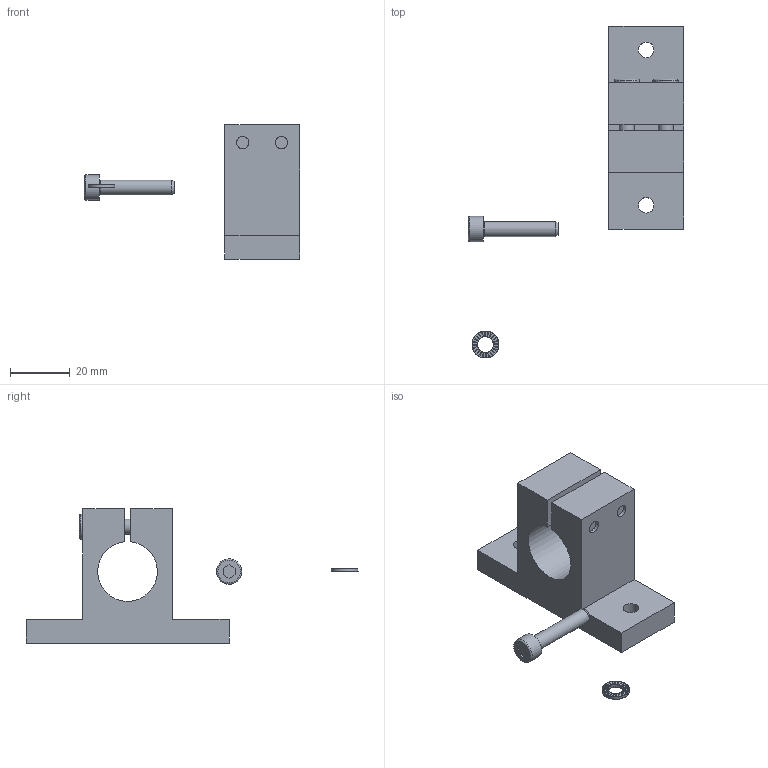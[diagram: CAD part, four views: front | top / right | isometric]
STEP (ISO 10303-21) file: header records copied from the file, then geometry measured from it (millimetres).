
FILE_DESCRIPTION( ( 'Unknown' ), '1' );
FILE_NAME( 'C:/Users/Fabrizio/Desktop/DISEGNI ACCESSORI FP SOLIDEDGE/CA.03.07.003.stp', 'Unknown', ( 'Unknown' ), ( 'Unknown' ), 'PSStep 13.0', 'Unknown', ' ' );
FILE_SCHEMA( ( 'AUTOMOTIVE_DESIGN { 1 0 10303 214 1 1 1 1 }' ) );
Length unit declared in the file: millimetre
Products named in the file (4): Assem1; 03-07--003; V-tcei M  5 x 25; R.5.SCH
Bounding box: 72 x 111.14 x 45 mm (x, y, z)
Volume: 64085.2 mm3; surface area: 25041.1 mm2
Topology: 5 solids, 8 shells, 675 faces, 1965 edges, 1307 vertices
Faces by surface type: plane 636, cylinder 30, torus 6, cone 3
Full cylindrical faces by diameter (mm): 4.134 x4, 5 x3, 5.2 x8, 5.3 x3, 8.5 x3, 9 x3, 11 x4
Entity records: 9370 total; most frequent: DIRECTION 1348, CARTESIAN_POINT 1335, ORIENTED_EDGE 1306, EDGE_CURVE 653, AXIS2_PLACEMENT_3D 456, VERTEX_POINT 443, LINE 436, VECTOR 436
